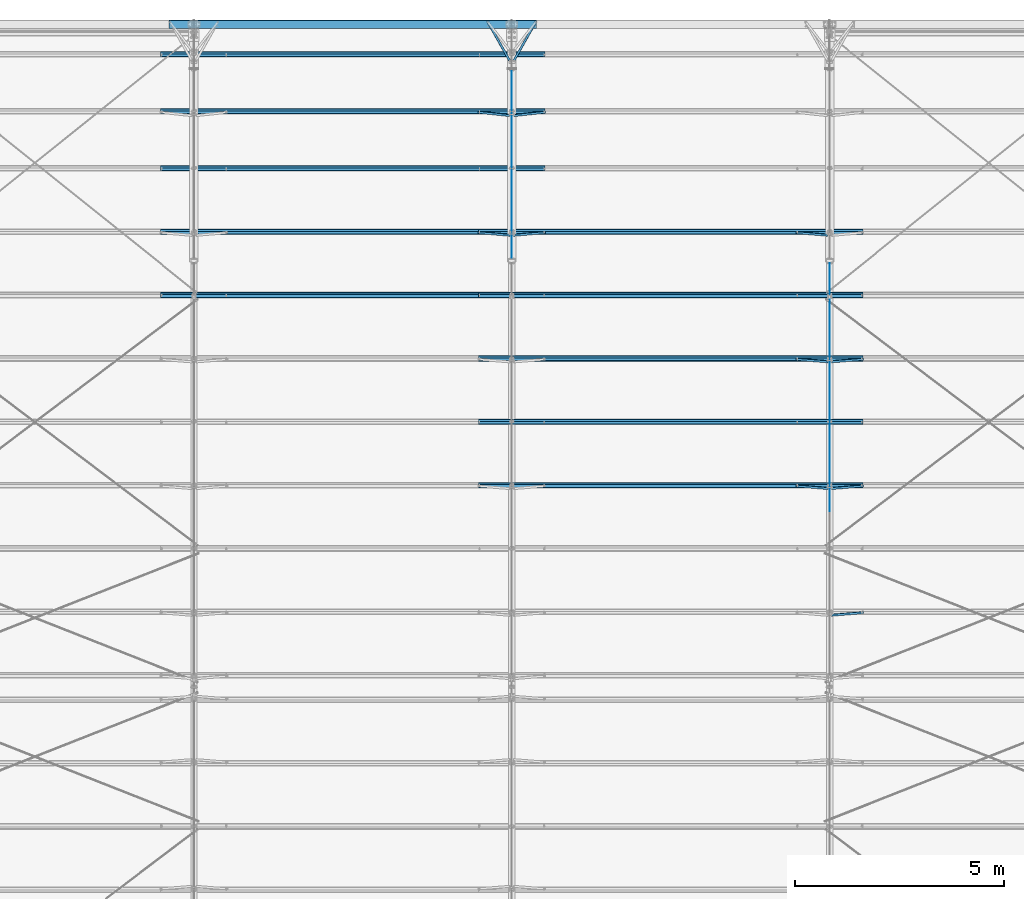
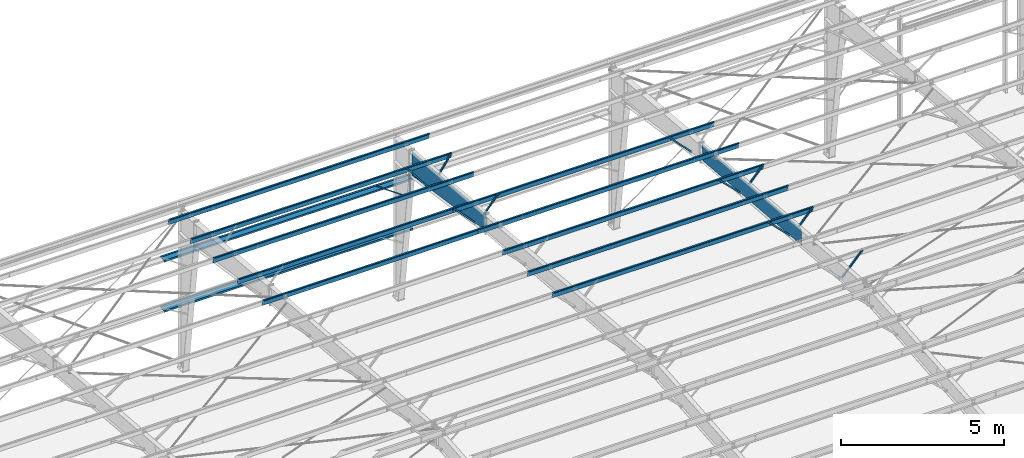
# One storey, part 15 of 185: 16 beams, 10 members, 26 elements without a shape of their own.
"""IFC2X3 building model written with IfcOpenShell, lengths in millimetres."""

from ifc_helpers import new_model, si_unit, frame, origin_with_axes, origin_2d_with_axis, place, context, subcontext, project, spatial, polyline, rectangle, outline, extrude, clip, halfspace, material, type_object, element, aggregate, save


model = new_model("IFC2X3")

# Units and contexts
model_context = context("Model", 3, precision=1e-05, world=origin_with_axes())
body_context = subcontext(model_context, "Body", "Model", "MODEL_VIEW")
ifc_project = project(units=[si_unit("LENGTHUNIT", "METRE", prefix="MILLI"), si_unit("AREAUNIT", "SQUARE_METRE"), si_unit("VOLUMEUNIT", "CUBIC_METRE"), si_unit("MASSUNIT", "GRAM", prefix="KILO"), si_unit("TIMEUNIT", "SECOND"), si_unit("PLANEANGLEUNIT", "RADIAN"), si_unit("SOLIDANGLEUNIT", "STERADIAN"), si_unit("THERMODYNAMICTEMPERATUREUNIT", "DEGREE_CELSIUS"), si_unit("LUMINOUSINTENSITYUNIT", "LUMEN")], contexts=[model_context])

# Site, building, storey
site_placement = place(None, origin_with_axes())
site = spatial("IfcSite", under=ifc_project, at=site_placement, Name="Undefined", CompositionType="ELEMENT")
building_placement = place(site_placement, origin_with_axes())
building = spatial("IfcBuilding", under=site, at=building_placement, Name="Undefined", CompositionType="ELEMENT")
storey_placement = place(building_placement, origin_with_axes())
storey = spatial("IfcBuildingStorey", under=building, at=storey_placement, Name="Undefined", CompositionType="ELEMENT", Elevation=0.0)

# Assembly, beam
assembly_1_placement = place(storey_placement, origin_with_axes())
assembly_1 = element("IfcElementAssembly", 1, at=assembly_1_placement, inside=storey, Name="Steel Assembly", AssemblyPlace="NOTDEFINED", PredefinedType="RIGID_FRAME")
ifc_material = material(Name="STEEL/55")
beam_type_1 = type_object("IfcBeamType", Name="8Z15", PredefinedType="NOTDEFINED")
beam_1_placement = place(assembly_1_placement, frame((22479.0, 31180.9195102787, 6062.63787351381), z_axis=(0.0, -0.0830454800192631, -0.996545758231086), x_axis=(-1.0, 0.0, 0.0)))
beam_1 = element("IfcBeam", 2, at=beam_1_placement, type_object=beam_type_1, material=ifc_material, Name="Purlin", ObjectType="8Z15", context=body_context, shape_type="Clipping", body=[
    clip(clip(extrude(outline(polyline([(-75.75, 87.0100021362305), (-63.5, 101.599998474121), (1.5900000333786, 101.599998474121), (1.5900000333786, -98.4199981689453), (62.0200004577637, -98.4199981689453), (73.3099975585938, -84.9700012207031), (75.7399978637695, -87.0100021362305), (63.5, -101.599998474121), (-1.5900000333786, -101.599998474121), (-1.5900000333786, 98.4199981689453), (-62.0200004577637, 98.4199981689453), (-73.3099975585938, 84.9700012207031), (-75.75, 87.0100021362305)])), frame((8420.1, 0.0, 0.0), z_axis=(-1.0, 0.0, 0.0), x_axis=(0.0, -1.0, 0.0)), (0.0, 0.0, 1.0), 9220.2), halfspace(frame((8420.1, 2.91402102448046e-09, -101.600000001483), z_axis=(-1.0, 0.0, 0.0), x_axis=(0.0, 0.0, 1.0)), True)), halfspace(frame((-800.1, 2.91402102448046e-09, -101.600000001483), z_axis=(-1.0, 0.0, 0.0), x_axis=(0.0, 0.0, 1.0)), False)),
])
aggregate(assembly_1, [beam_1])

assembly_2_placement = place(storey_placement, origin_with_axes())
assembly_2 = element("IfcElementAssembly", 3, at=assembly_2_placement, inside=storey, Name="Steel Assembly", AssemblyPlace="NOTDEFINED", PredefinedType="RIGID_FRAME")
beam_2_placement = place(assembly_2_placement, frame((22479.0, 29814.0573482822, 6176.54305391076), z_axis=(0.0, -0.0830454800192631, -0.996545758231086), x_axis=(-1.0, 0.0, 0.0)))
beam_2 = element("IfcBeam", 4, at=beam_2_placement, type_object=beam_type_1, material=ifc_material, Name="Purlin", ObjectType="8Z15", context=body_context, shape_type="Clipping", body=[
    clip(clip(extrude(outline(polyline([(-75.75, 87.0100021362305), (-63.5, 101.599998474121), (1.5900000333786, 101.599998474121), (1.5900000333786, -98.4199981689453), (62.0200004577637, -98.4199981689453), (73.3099975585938, -84.9700012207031), (75.7399978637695, -87.0100021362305), (63.5, -101.599998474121), (-1.5900000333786, -101.599998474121), (-1.5900000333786, 98.4199981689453), (-62.0200004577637, 98.4199981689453), (-73.3099975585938, 84.9700012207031), (-75.75, 87.0100021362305)])), frame((8420.1, 0.0, 0.0), z_axis=(-1.0, 0.0, 0.0), x_axis=(0.0, -1.0, 0.0)), (0.0, 0.0, 1.0), 9220.2), halfspace(frame((8420.1, 2.91402102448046e-09, -101.600000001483), z_axis=(-1.0, 0.0, 0.0), x_axis=(0.0, 0.0, 1.0)), True)), halfspace(frame((-800.1, 2.91402102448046e-09, -101.600000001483), z_axis=(-1.0, 0.0, 0.0), x_axis=(0.0, 0.0, 1.0)), False)),
])
aggregate(assembly_2, [beam_2])

assembly_3_placement = place(storey_placement, origin_with_axes())
assembly_3 = element("IfcElementAssembly", 5, at=assembly_3_placement, inside=storey, Name="Steel Assembly", AssemblyPlace="NOTDEFINED", PredefinedType="RIGID_FRAME")
beam_3_placement = place(assembly_3_placement, frame((22479.0, 28447.1951862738, 6290.4482343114), z_axis=(0.0, -0.0830454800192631, -0.996545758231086), x_axis=(-1.0, 0.0, 0.0)))
beam_3 = element("IfcBeam", 6, at=beam_3_placement, type_object=beam_type_1, material=ifc_material, Name="Purlin", ObjectType="8Z15", context=body_context, shape_type="Clipping", body=[
    clip(clip(extrude(outline(polyline([(-75.75, 87.0100021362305), (-63.5, 101.599998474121), (1.5900000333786, 101.599998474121), (1.5900000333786, -98.4199981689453), (62.0200004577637, -98.4199981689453), (73.3099975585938, -84.9700012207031), (75.7399978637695, -87.0100021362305), (63.5, -101.599998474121), (-1.5900000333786, -101.599998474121), (-1.5900000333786, 98.4199981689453), (-62.0200004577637, 98.4199981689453), (-73.3099975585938, 84.9700012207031), (-75.75, 87.0100021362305)])), frame((8420.1, 0.0, 0.0), z_axis=(-1.0, 0.0, 0.0), x_axis=(0.0, -1.0, 0.0)), (0.0, 0.0, 1.0), 9220.2), halfspace(frame((8420.1, 2.91402102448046e-09, -101.600000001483), z_axis=(-1.0, 0.0, 0.0), x_axis=(0.0, 0.0, 1.0)), True)), halfspace(frame((-800.1, 2.91402102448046e-09, -101.600000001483), z_axis=(-1.0, 0.0, 0.0), x_axis=(0.0, 0.0, 1.0)), False)),
])
aggregate(assembly_3, [beam_3])

assembly_4_placement = place(storey_placement, origin_with_axes())
assembly_4 = element("IfcElementAssembly", 7, at=assembly_4_placement, inside=storey, Name="Steel Assembly", AssemblyPlace="NOTDEFINED", PredefinedType="RIGID_FRAME")
beam_4_placement = place(assembly_4_placement, frame((22479.0, 26928.4594507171, 6417.00954586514), z_axis=(0.0, -0.0830454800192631, -0.996545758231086), x_axis=(-1.0, 0.0, 0.0)))
beam_4 = element("IfcBeam", 8, at=beam_4_placement, type_object=beam_type_1, material=ifc_material, Name="Purlin", ObjectType="8Z15", context=body_context, shape_type="Clipping", body=[
    clip(clip(extrude(outline(polyline([(-75.75, 87.0100021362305), (-63.5, 101.599998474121), (1.5900000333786, 101.599998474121), (1.5900000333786, -98.4199981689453), (62.0200004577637, -98.4199981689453), (73.3099975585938, -84.9700012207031), (75.7399978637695, -87.0100021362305), (63.5, -101.599998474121), (-1.5900000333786, -101.599998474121), (-1.5900000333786, 98.4199981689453), (-62.0200004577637, 98.4199981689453), (-73.3099975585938, 84.9700012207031), (-75.75, 87.0100021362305)])), frame((8420.1, 0.0, 0.0), z_axis=(-1.0, 0.0, 0.0), x_axis=(0.0, -1.0, 0.0)), (0.0, 0.0, 1.0), 9220.2), halfspace(frame((8420.1, 2.91402102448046e-09, -101.600000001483), z_axis=(-1.0, 0.0, 0.0), x_axis=(0.0, 0.0, 1.0)), True)), halfspace(frame((-800.1, 2.91402102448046e-09, -101.600000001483), z_axis=(-1.0, 0.0, 0.0), x_axis=(0.0, 0.0, 1.0)), False)),
])
aggregate(assembly_4, [beam_4])

assembly_5_placement = place(storey_placement, origin_with_axes())
assembly_5 = element("IfcElementAssembly", 9, at=assembly_5_placement, inside=storey, Name="Steel Assembly", AssemblyPlace="NOTDEFINED", PredefinedType="RIGID_FRAME")
beam_5_placement = place(assembly_5_placement, frame((22479.0, 25409.7237151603, 6543.57085741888), z_axis=(0.0, -0.0830454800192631, -0.996545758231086), x_axis=(-1.0, 0.0, 0.0)))
beam_5 = element("IfcBeam", 10, at=beam_5_placement, type_object=beam_type_1, material=ifc_material, Name="Purlin", ObjectType="8Z15", context=body_context, shape_type="Clipping", body=[
    clip(clip(extrude(outline(polyline([(-75.75, 87.0100021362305), (-63.5, 101.599998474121), (1.5900000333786, 101.599998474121), (1.5900000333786, -98.4199981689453), (62.0200004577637, -98.4199981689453), (73.3099975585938, -84.9700012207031), (75.7399978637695, -87.0100021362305), (63.5, -101.599998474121), (-1.5900000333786, -101.599998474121), (-1.5900000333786, 98.4199981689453), (-62.0200004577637, 98.4199981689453), (-73.3099975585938, 84.9700012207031), (-75.75, 87.0100021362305)])), frame((8420.1, 0.0, 0.0), z_axis=(-1.0, 0.0, 0.0), x_axis=(0.0, -1.0, 0.0)), (0.0, 0.0, 1.0), 9220.2), halfspace(frame((8420.1, 2.91402102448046e-09, -101.600000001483), z_axis=(-1.0, 0.0, 0.0), x_axis=(0.0, 0.0, 1.0)), True)), halfspace(frame((-800.1, 2.91402102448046e-09, -101.600000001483), z_axis=(-1.0, 0.0, 0.0), x_axis=(0.0, 0.0, 1.0)), False)),
])
aggregate(assembly_5, [beam_5])

assembly_6_placement = place(storey_placement, origin_with_axes())
assembly_6 = element("IfcElementAssembly", 11, at=assembly_6_placement, inside=storey, Name="Steel Assembly", AssemblyPlace="NOTDEFINED", PredefinedType="RIGID_FRAME")
beam_6_placement = place(assembly_6_placement, frame((30099.0, 26928.4594507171, 6417.00954586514), z_axis=(0.0, -0.0830454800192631, -0.996545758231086), x_axis=(-1.0, 0.0, 0.0)))
beam_6 = element("IfcBeam", 12, at=beam_6_placement, type_object=beam_type_1, material=ifc_material, Name="Purlin", ObjectType="8Z15", context=body_context, shape_type="Clipping", body=[
    clip(clip(extrude(outline(polyline([(-75.75, 87.0100021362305), (-63.5, 101.599998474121), (1.5900000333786, 101.599998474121), (1.5900000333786, -98.4199981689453), (62.0200004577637, -98.4199981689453), (73.3099975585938, -84.9700012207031), (75.7399978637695, -87.0100021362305), (63.5, -101.599998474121), (-1.5900000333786, -101.599998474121), (-1.5900000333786, 98.4199981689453), (-62.0200004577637, 98.4199981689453), (-73.3099975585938, 84.9700012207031), (-75.75, 87.0100021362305)])), frame((8420.1, 0.0, 0.0), z_axis=(-1.0, 0.0, 0.0), x_axis=(0.0, -1.0, 0.0)), (0.0, 0.0, 1.0), 9220.2), halfspace(frame((8420.1, 2.91402102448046e-09, -101.600000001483), z_axis=(-1.0, 0.0, 0.0), x_axis=(0.0, 0.0, 1.0)), True)), halfspace(frame((-800.1, 2.91402102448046e-09, -101.600000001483), z_axis=(-1.0, 0.0, 0.0), x_axis=(0.0, 0.0, 1.0)), False)),
])
aggregate(assembly_6, [beam_6])

assembly_7_placement = place(storey_placement, origin_with_axes())
assembly_7 = element("IfcElementAssembly", 13, at=assembly_7_placement, inside=storey, Name="Steel Assembly", AssemblyPlace="NOTDEFINED", PredefinedType="RIGID_FRAME")
beam_7_placement = place(assembly_7_placement, frame((30099.0, 25409.7237151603, 6543.57085741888), z_axis=(0.0, -0.0830454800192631, -0.996545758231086), x_axis=(-1.0, 0.0, 0.0)))
beam_7 = element("IfcBeam", 14, at=beam_7_placement, type_object=beam_type_1, material=ifc_material, Name="Purlin", ObjectType="8Z15", context=body_context, shape_type="Clipping", body=[
    clip(clip(extrude(outline(polyline([(-75.75, 87.0100021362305), (-63.5, 101.599998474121), (1.5900000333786, 101.599998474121), (1.5900000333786, -98.4199981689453), (62.0200004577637, -98.4199981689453), (73.3099975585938, -84.9700012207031), (75.7399978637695, -87.0100021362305), (63.5, -101.599998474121), (-1.5900000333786, -101.599998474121), (-1.5900000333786, 98.4199981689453), (-62.0200004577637, 98.4199981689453), (-73.3099975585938, 84.9700012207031), (-75.75, 87.0100021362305)])), frame((8420.1, 0.0, 0.0), z_axis=(-1.0, 0.0, 0.0), x_axis=(0.0, -1.0, 0.0)), (0.0, 0.0, 1.0), 9220.2), halfspace(frame((8420.1, 2.91402102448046e-09, -101.600000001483), z_axis=(-1.0, 0.0, 0.0), x_axis=(0.0, 0.0, 1.0)), True)), halfspace(frame((-800.1, 2.91402102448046e-09, -101.600000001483), z_axis=(-1.0, 0.0, 0.0), x_axis=(0.0, 0.0, 1.0)), False)),
])
aggregate(assembly_7, [beam_7])

assembly_8_placement = place(storey_placement, origin_with_axes())
assembly_8 = element("IfcElementAssembly", 15, at=assembly_8_placement, inside=storey, Name="Steel Assembly", AssemblyPlace="NOTDEFINED", PredefinedType="RIGID_FRAME")
beam_8_placement = place(assembly_8_placement, frame((30099.0, 23890.9879796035, 6670.13216897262), z_axis=(0.0, -0.0830454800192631, -0.996545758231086), x_axis=(-1.0, 0.0, 0.0)))
beam_8 = element("IfcBeam", 16, at=beam_8_placement, type_object=beam_type_1, material=ifc_material, Name="Purlin", ObjectType="8Z15", context=body_context, shape_type="Clipping", body=[
    clip(clip(extrude(outline(polyline([(-75.75, 87.0100021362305), (-63.5, 101.599998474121), (1.5900000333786, 101.599998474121), (1.5900000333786, -98.4199981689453), (62.0200004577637, -98.4199981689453), (73.3099975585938, -84.9700012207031), (75.7399978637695, -87.0100021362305), (63.5, -101.599998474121), (-1.5900000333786, -101.599998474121), (-1.5900000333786, 98.4199981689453), (-62.0200004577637, 98.4199981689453), (-73.3099975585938, 84.9700012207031), (-75.75, 87.0100021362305)])), frame((8420.1, 0.0, 0.0), z_axis=(-1.0, 0.0, 0.0), x_axis=(0.0, -1.0, 0.0)), (0.0, 0.0, 1.0), 9220.2), halfspace(frame((8420.1, 2.91402102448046e-09, -101.600000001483), z_axis=(-1.0, 0.0, 0.0), x_axis=(0.0, 0.0, 1.0)), True)), halfspace(frame((-800.1, 2.91402102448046e-09, -101.600000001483), z_axis=(-1.0, 0.0, 0.0), x_axis=(0.0, 0.0, 1.0)), False)),
])
aggregate(assembly_8, [beam_8])

assembly_9_placement = place(storey_placement, origin_with_axes())
assembly_9 = element("IfcElementAssembly", 17, at=assembly_9_placement, inside=storey, Name="Steel Assembly", AssemblyPlace="NOTDEFINED", PredefinedType="RIGID_FRAME")
beam_9_placement = place(assembly_9_placement, frame((30099.0, 22372.2522440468, 6796.69348052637), z_axis=(0.0, -0.0830454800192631, -0.996545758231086), x_axis=(-1.0, 0.0, 0.0)))
beam_9 = element("IfcBeam", 18, at=beam_9_placement, type_object=beam_type_1, material=ifc_material, Name="Purlin", ObjectType="8Z15", context=body_context, shape_type="Clipping", body=[
    clip(clip(extrude(outline(polyline([(-75.75, 87.0100021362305), (-63.5, 101.599998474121), (1.5900000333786, 101.599998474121), (1.5900000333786, -98.4199981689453), (62.0200004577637, -98.4199981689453), (73.3099975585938, -84.9700012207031), (75.7399978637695, -87.0100021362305), (63.5, -101.599998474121), (-1.5900000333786, -101.599998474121), (-1.5900000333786, 98.4199981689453), (-62.0200004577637, 98.4199981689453), (-73.3099975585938, 84.9700012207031), (-75.75, 87.0100021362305)])), frame((8420.1, 0.0, 0.0), z_axis=(-1.0, 0.0, 0.0), x_axis=(0.0, -1.0, 0.0)), (0.0, 0.0, 1.0), 9220.2), halfspace(frame((8420.1, 2.91402102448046e-09, -101.600000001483), z_axis=(-1.0, 0.0, 0.0), x_axis=(0.0, 0.0, 1.0)), True)), halfspace(frame((-800.1, 2.91402102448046e-09, -101.600000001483), z_axis=(-1.0, 0.0, 0.0), x_axis=(0.0, 0.0, 1.0)), False)),
])
aggregate(assembly_9, [beam_9])

assembly_10_placement = place(storey_placement, origin_with_axes())
assembly_10 = element("IfcElementAssembly", 19, at=assembly_10_placement, inside=storey, Name="Steel Assembly", AssemblyPlace="NOTDEFINED", PredefinedType="RIGID_FRAME")
beam_10_placement = place(assembly_10_placement, frame((30099.0, 20853.51650849, 6923.25479208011), z_axis=(0.0, -0.0830454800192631, -0.996545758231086), x_axis=(-1.0, 0.0, 0.0)))
beam_10 = element("IfcBeam", 20, at=beam_10_placement, type_object=beam_type_1, material=ifc_material, Name="Purlin", ObjectType="8Z15", context=body_context, shape_type="Clipping", body=[
    clip(clip(extrude(outline(polyline([(-75.75, 87.0100021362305), (-63.5, 101.599998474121), (1.5900000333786, 101.599998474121), (1.5900000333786, -98.4199981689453), (62.0200004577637, -98.4199981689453), (73.3099975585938, -84.9700012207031), (75.7399978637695, -87.0100021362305), (63.5, -101.599998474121), (-1.5900000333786, -101.599998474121), (-1.5900000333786, 98.4199981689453), (-62.0200004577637, 98.4199981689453), (-73.3099975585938, 84.9700012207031), (-75.75, 87.0100021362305)])), frame((8420.1, 0.0, 0.0), z_axis=(-1.0, 0.0, 0.0), x_axis=(0.0, -1.0, 0.0)), (0.0, 0.0, 1.0), 9220.2), halfspace(frame((8420.1, 2.91402102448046e-09, -101.600000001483), z_axis=(-1.0, 0.0, 0.0), x_axis=(0.0, 0.0, 1.0)), True)), halfspace(frame((-800.1, 2.91402102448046e-09, -101.600000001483), z_axis=(-1.0, 0.0, 0.0), x_axis=(0.0, 0.0, 1.0)), False)),
])
aggregate(assembly_10, [beam_10])

assembly_11_placement = place(storey_placement, origin_with_axes())
assembly_11 = element("IfcElementAssembly", 21, at=assembly_11_placement, inside=storey, Name="Steel Assembly", AssemblyPlace="NOTDEFINED", PredefinedType="RIGID_FRAME")
beam_type_2 = type_object("IfcBeamType", Name="FB-", PredefinedType="NOTDEFINED")
beam_11_placement = place(assembly_11_placement, frame((22535.5017799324, 30986.7973037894, 4165.60000000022), z_axis=(-0.871364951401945, 0.490635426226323, 0.0), x_axis=(0.490635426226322, 0.871364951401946, 0.0)))
beam_11 = element("IfcBeam", 22, at=beam_11_placement, type_object=beam_type_2, material=ifc_material, Name="2X2 FLANGE BRACE X 60", ObjectType="FB-", context=body_context, shape_type="SweptSolid", body=[
    extrude(outline(polyline([(1.5900000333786, 1.59000003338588), (50.7999992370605, 1.59000003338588), (50.7999992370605, 7.27595761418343e-12), (0.0, 0.0), (0.0, 50.7999992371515), (1.5900000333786, 50.7999992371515), (1.5900000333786, 1.59000003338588)])), frame((1120.16580962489, 9.09494701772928e-13, 0.0), z_axis=(-1.0, 0.0, 0.0), x_axis=(0.0, -1.0, 0.0)), (0.0, 0.0, 1.0), 1120.2),
])
aggregate(assembly_11, [beam_11])

assembly_12_placement = place(storey_placement, origin_with_axes())
assembly_12 = element("IfcElementAssembly", 23, at=assembly_12_placement, inside=storey, Name="Steel Assembly", AssemblyPlace="NOTDEFINED", PredefinedType="RIGID_FRAME")
beam_12_placement = place(assembly_12_placement, frame((22422.498220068, 30986.7973037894, 4165.59999999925), z_axis=(0.0, 0.0, 1.0), x_axis=(-0.490635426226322, 0.871364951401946, 0.0)))
beam_12 = element("IfcBeam", 24, at=beam_12_placement, type_object=beam_type_2, material=ifc_material, Name="2X2 FLANGE BRACE X 60", ObjectType="FB-", context=body_context, shape_type="SweptSolid", body=[
    extrude(outline(polyline([(1.5900000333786, 1.59000003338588), (50.7999992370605, 1.59000003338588), (50.7999992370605, 7.27595761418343e-12), (0.0, 0.0), (0.0, 50.7999992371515), (1.5900000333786, 50.7999992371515), (1.5900000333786, 1.59000003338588)])), frame((1120.16580962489, 9.09494701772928e-13, 0.0), z_axis=(-1.0, 0.0, 0.0), x_axis=(0.0, -1.0, 0.0)), (0.0, 0.0, 1.0), 1120.2),
])
aggregate(assembly_12, [beam_12])

assembly_13_placement = place(storey_placement, origin_with_axes())
assembly_13 = element("IfcElementAssembly", 25, at=assembly_13_placement, inside=storey, Name="Steel Assembly", AssemblyPlace="NOTDEFINED", PredefinedType="RIGID_FRAME")
beam_type_3 = type_object("IfcBeamType", Name="8Z16", PredefinedType="NOTDEFINED")
beam_13_placement = place(assembly_13_placement, frame((22479.0, 31902.4, 4165.6), z_axis=(0.0, -1.0, 0.0), x_axis=(-1.0, 0.0, 0.0)))
beam_13 = element("IfcBeam", 26, at=beam_13_placement, type_object=beam_type_3, material=ifc_material, Name="Girt", ObjectType="8Z16", context=body_context, shape_type="Clipping", body=[
    clip(clip(extrude(outline(polyline([(73.3099975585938, -84.9700012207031), (75.7399978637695, -87.0100021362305), (63.5, -101.599998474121), (-1.5900000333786, -101.599998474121), (-1.5900000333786, 98.4199981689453), (-62.0200004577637, 98.4199981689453), (-73.3099975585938, 84.9700012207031), (-75.75, 87.0100021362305), (-63.5, 101.599998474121), (1.5900000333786, 101.599998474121), (1.5900000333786, -98.4199981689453), (62.0200004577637, -98.4199981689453), (73.3099975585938, -84.9700012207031)])), frame((8216.9, 0.0, 0.0), z_axis=(-1.0, 0.0, 0.0), x_axis=(0.0, -1.0, 0.0)), (0.0, 0.0, 1.0), 8813.8), halfspace(frame((8216.9, 0.0, -101.6), z_axis=(1.0, 0.0, 0.0), x_axis=(0.0, 1.0, 0.0)), False)), halfspace(frame((-596.900000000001, 0.0, -101.6), z_axis=(1.0, 0.0, 0.0), x_axis=(0.0, 1.0, 0.0)), True)),
])
aggregate(assembly_13, [beam_13])

assembly_14_placement = place(storey_placement, origin_with_axes())
assembly_14 = element("IfcElementAssembly", 27, at=assembly_14_placement, inside=storey, Name="Steel Assembly", AssemblyPlace="NOTDEFINED", PredefinedType="RIGID_FRAME")
beam_14_placement = place(assembly_14_placement, frame((22479.0, 31902.4, 2286.0), z_axis=(0.0, -1.0, 0.0), x_axis=(-1.0, 0.0, 0.0)))
beam_14 = element("IfcBeam", 28, at=beam_14_placement, type_object=beam_type_3, material=ifc_material, Name="Girt", ObjectType="8Z16", context=body_context, shape_type="Clipping", body=[
    clip(clip(extrude(outline(polyline([(73.3099975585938, -84.9700012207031), (75.7399978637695, -87.0100021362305), (63.5, -101.599998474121), (-1.5900000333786, -101.599998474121), (-1.5900000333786, 98.4199981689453), (-62.0200004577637, 98.4199981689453), (-73.3099975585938, 84.9700012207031), (-75.75, 87.0100021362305), (-63.5, 101.599998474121), (1.5900000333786, 101.599998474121), (1.5900000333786, -98.4199981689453), (62.0200004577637, -98.4199981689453), (73.3099975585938, -84.9700012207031)])), frame((8216.9, 0.0, 0.0), z_axis=(-1.0, 0.0, 0.0), x_axis=(0.0, -1.0, 0.0)), (0.0, 0.0, 1.0), 8813.8), halfspace(frame((8216.9, 0.0, -101.6), z_axis=(1.0, 0.0, 0.0), x_axis=(0.0, 1.0, 0.0)), False)), halfspace(frame((-596.900000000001, 0.0, -101.6), z_axis=(1.0, 0.0, 0.0), x_axis=(0.0, 1.0, 0.0)), True)),
])
aggregate(assembly_14, [beam_14])

# Assembly, member
assembly_15_placement = place(storey_placement, origin_with_axes())
assembly_15 = element("IfcElementAssembly", 29, at=assembly_15_placement, inside=storey, Name="Steel Assembly", AssemblyPlace="NOTDEFINED", PredefinedType="RIGID_FRAME")
member_type = type_object("IfcMemberType", Name="FB-", PredefinedType="NOTDEFINED")
member_1_placement = place(assembly_15_placement, frame((30144.6857108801, 23833.2927043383, 5977.78886514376), z_axis=(-0.697745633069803, 0.0594892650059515, 0.713871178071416), x_axis=(0.716345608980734, 0.0579446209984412, 0.6953354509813)))
member_1 = element("IfcMember", 30, at=member_1_placement, type_object=member_type, material=ifc_material, Name="2X2 FLANGE BRACE X 48", ObjectType="FB-", context=body_context, shape_type="SweptSolid", body=[
    extrude(outline(polyline([(1.5900000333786, 1.59000003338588), (50.7999992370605, 1.59000003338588), (50.7999992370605, 7.27595761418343e-12), (0.0, 0.0), (0.0, 50.7999992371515), (1.5900000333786, 50.7999992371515), (1.5900000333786, 1.59000003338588)])), frame((1067.82563693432, 1.82639893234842e-12, 1.75971317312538e-12), z_axis=(-1.0, 0.0, 0.0), x_axis=(0.0, -1.0, 0.0)), (0.0, 0.0, 1.0), 1067.8),
])
aggregate(assembly_15, [member_1])

assembly_16_placement = place(storey_placement, origin_with_axes())
assembly_16 = element("IfcElementAssembly", 31, at=assembly_16_placement, inside=storey, Name="Steel Assembly", AssemblyPlace="NOTDEFINED", PredefinedType="RIGID_FRAME")
member_2_placement = place(assembly_16_placement, frame((30144.6857108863, 20795.8212332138, 6230.9114877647), z_axis=(-0.697745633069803, 0.0594892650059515, 0.713871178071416), x_axis=(0.716345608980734, 0.0579446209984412, 0.6953354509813)))
member_2 = element("IfcMember", 32, at=member_2_placement, type_object=member_type, material=ifc_material, Name="2X2 FLANGE BRACE X 48", ObjectType="FB-", context=body_context, shape_type="SweptSolid", body=[
    extrude(outline(polyline([(1.5900000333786, 1.59000003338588), (50.7999992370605, 1.59000003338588), (50.7999992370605, 7.27595761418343e-12), (0.0, 0.0), (0.0, 50.7999992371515), (1.5900000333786, 50.7999992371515), (1.5900000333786, 1.59000003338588)])), frame((1067.82563693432, 1.82639893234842e-12, 1.75971317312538e-12), z_axis=(-1.0, 0.0, 0.0), x_axis=(0.0, -1.0, 0.0)), (0.0, 0.0, 1.0), 1067.8),
])
aggregate(assembly_16, [member_2])

assembly_17_placement = place(storey_placement, origin_with_axes())
assembly_17 = element("IfcElementAssembly", 33, at=assembly_17_placement, inside=storey, Name="Steel Assembly", AssemblyPlace="NOTDEFINED", PredefinedType="RIGID_FRAME")
member_3_placement = place(assembly_17_placement, frame((30144.6857108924, 17758.3497620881, 6484.03411038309), z_axis=(-0.697745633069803, 0.0594892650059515, 0.713871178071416), x_axis=(0.716345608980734, 0.0579446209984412, 0.6953354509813)))
member_3 = element("IfcMember", 34, at=member_3_placement, type_object=member_type, material=ifc_material, Name="2X2 FLANGE BRACE X 48", ObjectType="FB-", context=body_context, shape_type="SweptSolid", body=[
    extrude(outline(polyline([(1.5900000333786, 1.59000003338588), (50.7999992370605, 1.59000003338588), (50.7999992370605, 7.27595761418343e-12), (0.0, 0.0), (0.0, 50.7999992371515), (1.5900000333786, 50.7999992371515), (1.5900000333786, 1.59000003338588)])), frame((1067.82563693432, 1.82639893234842e-12, 1.75971317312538e-12), z_axis=(-1.0, 0.0, 0.0), x_axis=(0.0, -1.0, 0.0)), (0.0, 0.0, 1.0), 1067.8),
])
aggregate(assembly_17, [member_3])

assembly_18_placement = place(storey_placement, origin_with_axes())
assembly_18 = element("IfcElementAssembly", 35, at=assembly_18_placement, inside=storey, Name="Steel Assembly", AssemblyPlace="NOTDEFINED", PredefinedType="RIGID_FRAME")
member_4_placement = place(assembly_18_placement, frame((22526.4331333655, 26867.1879450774, 5681.75147708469), z_axis=(-0.718860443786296, 0.0577294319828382, 0.692753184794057), x_axis=(0.695154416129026, 0.0596981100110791, 0.716377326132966)))
member_4 = element("IfcMember", 36, at=member_4_placement, type_object=member_type, material=ifc_material, Name="2X2 FLANGE BRACE X 48", ObjectType="FB-", context=body_context, shape_type="SweptSolid", body=[
    extrude(outline(polyline([(1.5900000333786, 1.59000003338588), (50.7999992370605, 1.59000003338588), (50.7999992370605, 7.27595761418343e-12), (0.0, 0.0), (0.0, 50.7999992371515), (1.5900000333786, 50.7999992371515), (1.5900000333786, 1.59000003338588)])), frame((1097.86088662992, -3.65321468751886e-12, 1.03138174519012e-12), z_axis=(-1.0, 0.0, 0.0), x_axis=(0.0, -1.0, 0.0)), (0.0, 0.0, 1.0), 1097.9),
])
aggregate(assembly_18, [member_4])

assembly_19_placement = place(storey_placement, origin_with_axes())
assembly_19 = element("IfcElementAssembly", 37, at=assembly_19_placement, inside=storey, Name="Steel Assembly", AssemblyPlace="NOTDEFINED", PredefinedType="RIGID_FRAME")
member_5_placement = place(assembly_19_placement, frame((22431.5668666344, 26867.1879450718, 5681.75147708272), z_axis=(0.0, -0.996545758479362, 0.0830454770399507), x_axis=(-0.695154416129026, 0.0596981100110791, 0.716377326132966)))
member_5 = element("IfcMember", 38, at=member_5_placement, type_object=member_type, material=ifc_material, Name="2X2 FLANGE BRACE X 48", ObjectType="FB-", context=body_context, shape_type="SweptSolid", body=[
    extrude(outline(polyline([(1.5900000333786, 1.59000003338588), (50.7999992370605, 1.59000003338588), (50.7999992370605, 7.27595761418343e-12), (0.0, 0.0), (0.0, 50.7999992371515), (1.5900000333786, 50.7999992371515), (1.5900000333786, 1.59000003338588)])), frame((1097.86088662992, -3.65321468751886e-12, 1.03138174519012e-12), z_axis=(-1.0, 0.0, 0.0), x_axis=(0.0, -1.0, 0.0)), (0.0, 0.0, 1.0), 1097.9),
])
aggregate(assembly_19, [member_5])

assembly_20_placement = place(storey_placement, origin_with_axes())
assembly_20 = element("IfcElementAssembly", 39, at=assembly_20_placement, inside=storey, Name="Steel Assembly", AssemblyPlace="NOTDEFINED", PredefinedType="RIGID_FRAME")
member_6_placement = place(assembly_20_placement, frame((30051.5668666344, 26867.1879450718, 5681.75147708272), z_axis=(0.0, -0.996545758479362, 0.0830454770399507), x_axis=(-0.695154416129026, 0.0596981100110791, 0.716377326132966)))
member_6 = element("IfcMember", 40, at=member_6_placement, type_object=member_type, material=ifc_material, Name="2X2 FLANGE BRACE X 48", ObjectType="FB-", context=body_context, shape_type="SweptSolid", body=[
    extrude(outline(polyline([(1.5900000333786, 1.59000003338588), (50.7999992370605, 1.59000003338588), (50.7999992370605, 7.27595761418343e-12), (0.0, 0.0), (0.0, 50.7999992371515), (1.5900000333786, 50.7999992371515), (1.5900000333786, 1.59000003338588)])), frame((1097.86088662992, -3.65321468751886e-12, 1.03138174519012e-12), z_axis=(-1.0, 0.0, 0.0), x_axis=(0.0, -1.0, 0.0)), (0.0, 0.0, 1.0), 1097.9),
])
aggregate(assembly_20, [member_6])

assembly_21_placement = place(storey_placement, origin_with_axes())
assembly_21 = element("IfcElementAssembly", 41, at=assembly_21_placement, inside=storey, Name="Steel Assembly", AssemblyPlace="NOTDEFINED", PredefinedType="RIGID_FRAME")
member_7_placement = place(assembly_21_placement, frame((22530.4101776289, 29737.0414636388, 5252.3524377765), z_axis=(-0.791478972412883, 0.0507570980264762, 0.609085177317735), x_axis=(0.611196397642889, 0.065728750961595, 0.78874501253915)))
member_7 = element("IfcMember", 42, at=member_7_placement, type_object=member_type, material=ifc_material, Name="2X2 FLANGE BRACE X 60", ObjectType="FB-", context=body_context, shape_type="SweptSolid", body=[
    extrude(outline(polyline([(1.5900000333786, 1.59000003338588), (50.7999992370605, 1.59000003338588), (50.7999992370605, 7.27595761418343e-12), (0.0, 0.0), (0.0, 50.7999992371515), (1.5900000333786, 50.7999992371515), (1.5900000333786, 1.59000003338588)])), frame((1241.69216231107, 1.72319403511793e-14, 8.40566940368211e-13), z_axis=(-1.0, 0.0, 0.0), x_axis=(0.0, -1.0, 0.0)), (0.0, 0.0, 1.0), 1241.7),
])
aggregate(assembly_21, [member_7])

assembly_22_placement = place(storey_placement, origin_with_axes())
assembly_22 = element("IfcElementAssembly", 43, at=assembly_22_placement, inside=storey, Name="Steel Assembly", AssemblyPlace="NOTDEFINED", PredefinedType="RIGID_FRAME")
member_8_placement = place(assembly_22_placement, frame((22427.5898223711, 29737.0414636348, 5252.35243777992), z_axis=(0.0, -0.996545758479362, 0.0830454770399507), x_axis=(-0.611196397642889, 0.065728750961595, 0.78874501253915)))
member_8 = element("IfcMember", 44, at=member_8_placement, type_object=member_type, material=ifc_material, Name="2X2 FLANGE BRACE X 60", ObjectType="FB-", context=body_context, shape_type="SweptSolid", body=[
    extrude(outline(polyline([(1.5900000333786, 1.59000003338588), (50.7999992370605, 1.59000003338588), (50.7999992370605, 7.27595761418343e-12), (0.0, 0.0), (0.0, 50.7999992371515), (1.5900000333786, 50.7999992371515), (1.5900000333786, 1.59000003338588)])), frame((1241.69216231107, 1.72319403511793e-14, 8.40566940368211e-13), z_axis=(-1.0, 0.0, 0.0), x_axis=(0.0, -1.0, 0.0)), (0.0, 0.0, 1.0), 1241.7),
])
aggregate(assembly_22, [member_8])

assembly_23_placement = place(storey_placement, origin_with_axes())
assembly_23 = element("IfcElementAssembly", 45, at=assembly_23_placement, inside=storey, Name="Steel Assembly", AssemblyPlace="NOTDEFINED", PredefinedType="RIGID_FRAME")
member_9_placement = place(assembly_23_placement, frame((30053.3142891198, 23833.2927043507, 5977.78886514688), z_axis=(0.0, -0.996545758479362, 0.0830454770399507), x_axis=(-0.716345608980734, 0.0579446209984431, 0.6953354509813)))
member_9 = element("IfcMember", 46, at=member_9_placement, type_object=member_type, material=ifc_material, Name="2X2 FLANGE BRACE X 48", ObjectType="FB-", context=body_context, shape_type="SweptSolid", body=[
    extrude(outline(polyline([(1.5900000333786, 1.59000003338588), (50.7999992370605, 1.59000003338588), (50.7999992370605, 7.27595761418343e-12), (0.0, 0.0), (0.0, 50.7999992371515), (1.5900000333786, 50.7999992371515), (1.5900000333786, 1.59000003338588)])), frame((1067.82563693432, 1.82639893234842e-12, 1.75971317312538e-12), z_axis=(-1.0, 0.0, 0.0), x_axis=(0.0, -1.0, 0.0)), (0.0, 0.0, 1.0), 1067.8),
])
aggregate(assembly_23, [member_9])

assembly_24_placement = place(storey_placement, origin_with_axes())
assembly_24 = element("IfcElementAssembly", 47, at=assembly_24_placement, inside=storey, Name="Steel Assembly", AssemblyPlace="NOTDEFINED", PredefinedType="RIGID_FRAME")
member_10_placement = place(assembly_24_placement, frame((30053.3142891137, 20795.8212332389, 6230.91148777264), z_axis=(0.0, -0.996545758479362, 0.0830454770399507), x_axis=(-0.716345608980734, 0.0579446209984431, 0.6953354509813)))
member_10 = element("IfcMember", 48, at=member_10_placement, type_object=member_type, material=ifc_material, Name="2X2 FLANGE BRACE X 48", ObjectType="FB-", context=body_context, shape_type="SweptSolid", body=[
    extrude(outline(polyline([(1.5900000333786, 1.59000003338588), (50.7999992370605, 1.59000003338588), (50.7999992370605, 7.27595761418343e-12), (0.0, 0.0), (0.0, 50.7999992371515), (1.5900000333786, 50.7999992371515), (1.5900000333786, 1.59000003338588)])), frame((1067.82563693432, 1.82639893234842e-12, 1.75971317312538e-12), z_axis=(-1.0, 0.0, 0.0), x_axis=(0.0, -1.0, 0.0)), (0.0, 0.0, 1.0), 1067.8),
])
aggregate(assembly_24, [member_10])

# Assembly, beam
assembly_25_placement = place(storey_placement, origin_with_axes())
assembly_25 = element("IfcElementAssembly", 49, at=assembly_25_placement, inside=storey, Name="Steel Assembly", AssemblyPlace="NOTDEFINED", PredefinedType="RIGID_FRAME")
beam_type_4 = type_object("IfcBeamType", Name="PL3/16\"X36\"", PredefinedType="NOTDEFINED")
beam_15_placement = place(assembly_25_placement, frame((22479.0, 30859.3851615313, 5520.71772750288), z_axis=(0.0, 0.0830454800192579, 0.996545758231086), x_axis=(0.0, -0.996545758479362, 0.0830454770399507)))
beam_15 = element("IfcBeam", 50, at=beam_15_placement, type_object=beam_type_4, material=ifc_material, Name="Web", ObjectType="PL3/16\"X36\"", context=body_context, shape_type="Clipping", body=[
    clip(clip(clip(extrude(rectangle(XDim=4.762, YDim=914.4, at=origin_2d_with_axis()), frame((4635.45841786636, 0.0, 0.0), z_axis=(-1.0, 0.0, 0.0), x_axis=(0.0, -1.0, 0.0)), (0.0, 0.0, 1.0), 4686.9), halfspace(frame((-0.0865308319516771, 2.38124999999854, -457.199999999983), z_axis=(0.0654332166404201, 0.0, -0.99785695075), x_axis=(0.0, -1.0, 0.0)), False)), halfspace(frame((4635.45841788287, 0.0, 457.199999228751), z_axis=(-1.0, 0.0, 0.0), x_axis=(0.0, -1.0, 0.0)), True)), halfspace(frame((76.004485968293, 0.0, 455.892199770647), z_axis=(-0.996545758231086, 0.0, 0.0830454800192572), x_axis=(0.0, -1.0, 0.0)), False)),
])
aggregate(assembly_25, [beam_15])

assembly_26_placement = place(storey_placement, origin_with_axes())
assembly_26 = element("IfcElementAssembly", 51, at=assembly_26_placement, inside=storey, Name="Steel Assembly", AssemblyPlace="NOTDEFINED", PredefinedType="RIGID_FRAME")
beam_type_5 = type_object("IfcBeamType", Name="PL1/8\"X24\"", PredefinedType="NOTDEFINED")
beam_16_placement = place(assembly_26_placement, frame((30099.0, 26230.3200780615, 6059.40140337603), z_axis=(0.0, 0.0830454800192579, 0.996545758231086), x_axis=(0.0, -0.996545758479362, 0.0830454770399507)))
beam_16 = element("IfcBeam", 52, at=beam_16_placement, type_object=beam_type_5, material=ifc_material, Name="Web", ObjectType="PL1/8\"X24\"", context=body_context, shape_type="Clipping", body=[
    clip(extrude(rectangle(XDim=3.4163, YDim=609.59999999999, at=origin_2d_with_axis()), frame((6095.99999991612, 0.0, -8.45989944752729e-14), z_axis=(-1.0, 0.0, 0.0), x_axis=(0.0, -1.0, 0.0)), (0.0, 0.0, 1.0), 6096.0), halfspace(frame((2.96531652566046e-08, 0.0, 304.799999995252), z_axis=(-1.0, 0.0, 0.0), x_axis=(0.0, -1.0, 0.0)), False)),
])
aggregate(assembly_26, [beam_16])

save(model, "model.ifc")
